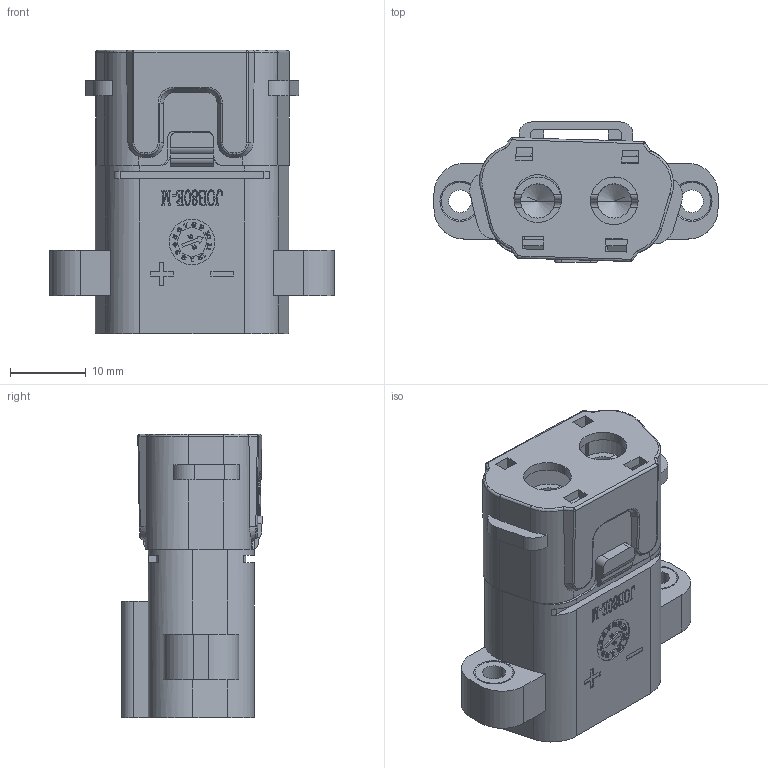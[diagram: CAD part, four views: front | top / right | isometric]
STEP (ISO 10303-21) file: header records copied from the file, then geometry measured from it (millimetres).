
FILE_DESCRIPTION((''),'2;1');
FILE_NAME('PAT0220BT002_ASM','2023-11-20T20:11:36',('Prolanv-Henry'),(''),'CREO PARAMETRIC BY PTC INC, 2023073','CREO PARAMETRIC BY PTC INC, 2023073','');
FILE_SCHEMA(('CONFIG_CONTROL_DESIGN'));
Length unit declared in the file: millimetre
Products named in the file (3): PAT02-02; CAP; PAT0220BT002_ASM
Assembly tree (2 placements, depth 2):
  PAT0220BT002_ASM
    PAT02-02
    CAP
Bounding box: 37.5 x 18.52 x 37.4 mm (x, y, z)
Volume: 1377.3 mm3; surface area: 11483.2 mm2
Topology: 1 solids, 9 shells, 1130 faces, 3135 edges, 2025 vertices
Faces by surface type: plane 563, extrusion 255, cylinder 164, cone 76, bspline 52, torus 14, sphere 4, revolution 2
Entity records: 41076 total; most frequent: CARTESIAN_POINT 13024, ORIENTED_EDGE 6236, DIRECTION 5021, EDGE_CURVE 3125, VERTEX_POINT 2025, VECTOR 1941, LINE 1686, AXIS2_PLACEMENT_3D 1539
